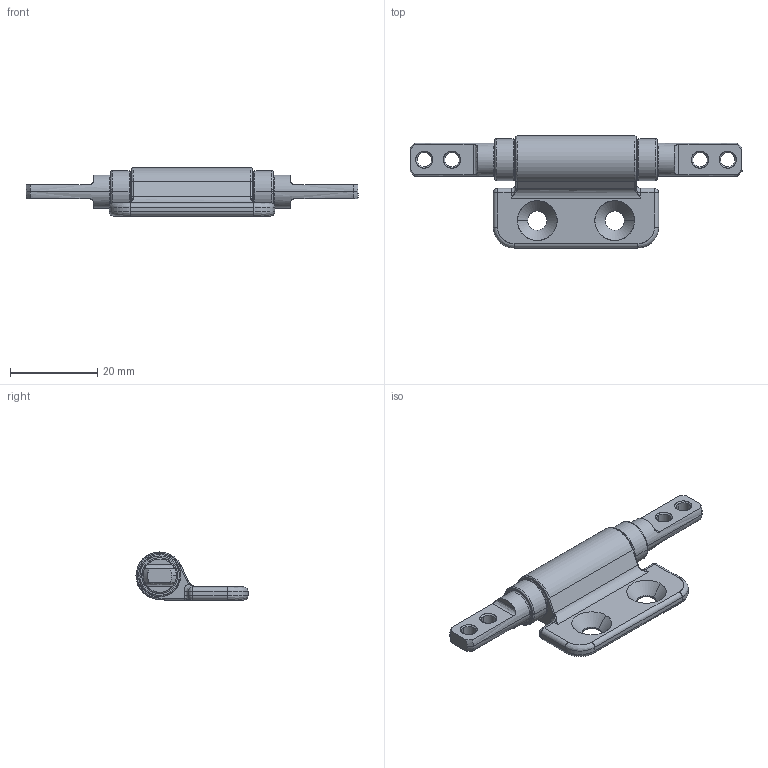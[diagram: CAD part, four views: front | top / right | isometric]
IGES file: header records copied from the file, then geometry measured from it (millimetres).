
Start section: SolidWorks IGES file using analytic representation for surfaces
Global section: file name: G:\RELEASED\84600\84659-0XX PHB DUAL\Reell PHB-X.XX-03-01-XX.IGS; native system: SolidWorks 2017; preprocessor: SolidWorks 2017; author: hmanderson; date: 181030.131334; units: millimetre
Bounding box: 76.27 x 25.75 x 11.05 mm (x, y, z)
Surface area: 4355.2 mm2 (no closed solid volume)
Topology: 0 solids, 0 shells, 582 faces, 5125 edges, 5111 vertices
Faces by surface type: bspline 451, revolution 131
